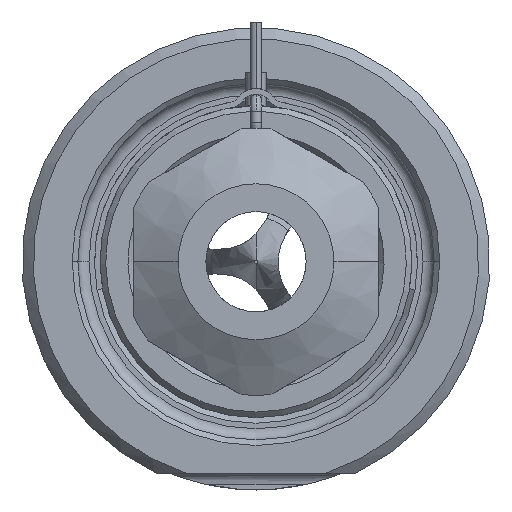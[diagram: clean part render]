
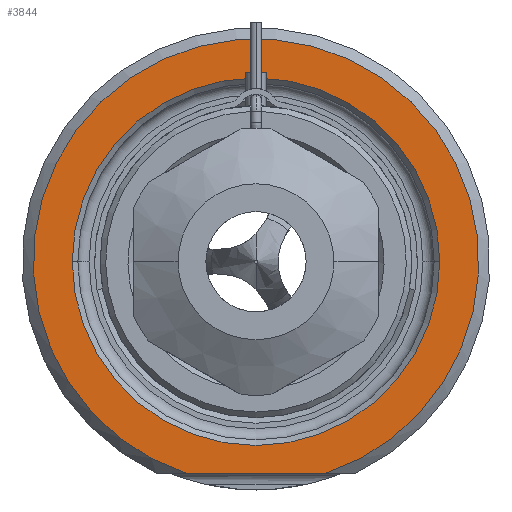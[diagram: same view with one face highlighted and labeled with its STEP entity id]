
A CAD part, front view. The second image highlights one B-rep face of the part: STEP entity #3844.
In plain terms, the highlighted planar face has unit normal (0, -1, 0).
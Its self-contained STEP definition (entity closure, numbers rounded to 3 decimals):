
#1=DIRECTION('',(1.,0.,0.));
#2=VECTOR('',#1,12.49);
#3=CARTESIAN_POINT('',(-6.245,0.,-19.));
#4=LINE('',#3,#2);
#5=CARTESIAN_POINT('',(0.,0.,0.));
#6=DIRECTION('',(0.,1.,0.));
#7=DIRECTION('',(-1.,0.,0.));
#8=AXIS2_PLACEMENT_3D('',#5,#6,#7);
#10=CARTESIAN_POINT('',(0.,0.,0.));
#11=DIRECTION('',(0.,1.,0.));
#12=DIRECTION('',(1.,0.,0.));
#13=AXIS2_PLACEMENT_3D('',#10,#11,#12);
#119=CARTESIAN_POINT('',(0.,0.,0.));
#120=DIRECTION('',(0.,-1.,0.));
#121=DIRECTION('',(0.312,0.,-0.95));
#122=AXIS2_PLACEMENT_3D('',#119,#120,#121);
#3229=CARTESIAN_POINT('',(-16.5,0.,0.));
#3230=CARTESIAN_POINT('',(16.5,0.,0.));
#3231=VERTEX_POINT('',#3229);
#3232=VERTEX_POINT('',#3230);
#3269=CARTESIAN_POINT('',(-6.245,0.,-19.));
#3270=CARTESIAN_POINT('',(6.245,0.,-19.));
#3271=VERTEX_POINT('',#3269);
#3272=VERTEX_POINT('',#3270);
#3827=CARTESIAN_POINT('',(0.,0.,0.));
#3828=DIRECTION('',(0.,-1.,0.));
#3829=DIRECTION('',(1.,0.,0.));
#3830=AXIS2_PLACEMENT_3D('',#3827,#3828,#3829);
#3831=PLANE('',#3830);
#3833=ORIENTED_EDGE('',*,*,#3832,.F.);
#3835=ORIENTED_EDGE('',*,*,#3834,.F.);
#3836=EDGE_LOOP('',(#3833,#3835));
#3837=FACE_OUTER_BOUND('',#3836,.F.);
#3839=ORIENTED_EDGE('',*,*,#3838,.F.);
#3841=ORIENTED_EDGE('',*,*,#3840,.F.);
#3842=EDGE_LOOP('',(#3839,#3841));
#3843=FACE_BOUND('',#3842,.F.);
#3844=ADVANCED_FACE('',(#3837,#3843),#3831,.T.);
#9=CIRCLE('',#8,16.5);
#14=CIRCLE('',#13,16.5);
#123=CIRCLE('',#122,20.);
#3832=EDGE_CURVE('',#3271,#3272,#4,.T.);
#3834=EDGE_CURVE('',#3272,#3271,#123,.T.);
#3838=EDGE_CURVE('',#3231,#3232,#9,.T.);
#3840=EDGE_CURVE('',#3232,#3231,#14,.T.);
